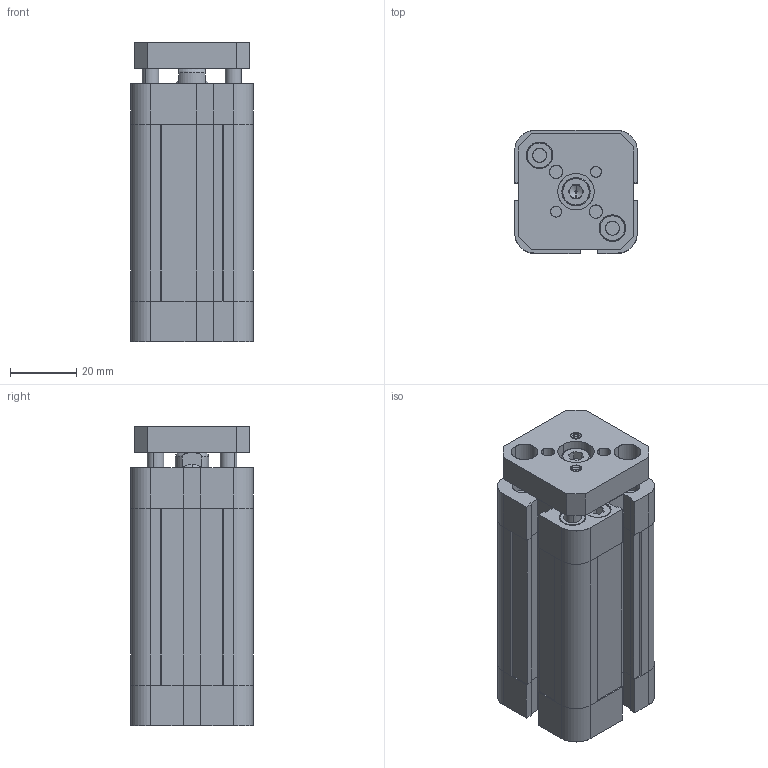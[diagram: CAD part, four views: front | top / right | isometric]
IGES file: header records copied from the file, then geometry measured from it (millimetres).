
Start section: SolidWorks IGES file using analytic representation for surfaces
Global section: file name: c:\CATALO3D\IGS\NSKU020.0040 F AR.IGS; native system: SolidWorks 2009; preprocessor: SolidWorks 2009; author: utente16; date: 100616.152044; units: millimetre
Bounding box: 37 x 37 x 90.5 mm (x, y, z)
Surface area: 40935.8 mm2 (no closed solid volume)
Topology: 0 solids, 0 shells, 667 faces, 13008 edges, 16224 vertices
Faces by surface type: revolution 345, bspline 322
